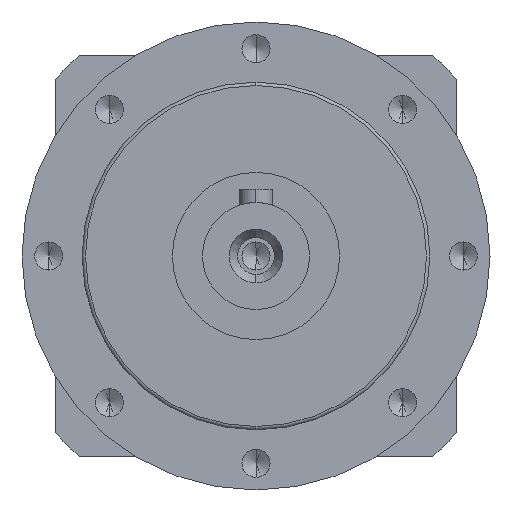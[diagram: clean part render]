
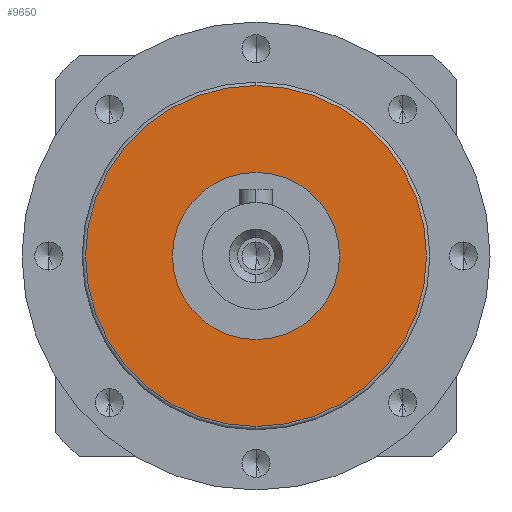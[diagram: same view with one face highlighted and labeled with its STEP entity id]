
A CAD part, left-side view. The second image highlights one B-rep face of the part: STEP entity #9650.
In plain terms, the highlighted planar face has unit normal (-1, 0, 0) as drawn and (0, 1, 0) by its records, which use the part's own axes.
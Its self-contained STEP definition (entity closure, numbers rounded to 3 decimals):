
#5799 = CARTESIAN_POINT ( 'NONE',  ( 0., 44., -25.5 ) ) ;
#5805 = CARTESIAN_POINT ( 'NONE',  ( 0., 44., 25.5 ) ) ;
#5857 = DIRECTION ( 'NONE',  ( 0., 0., 1. ) ) ;
#5858 = DIRECTION ( 'NONE',  ( 0., 1., 0. ) ) ;
#5859 = AXIS2_PLACEMENT_3D ( 'NONE', #5868, #5858, #5857 ) ;
#5860 = CIRCLE ( 'NONE', #5859, 25.5 ) ;
#5868 = CARTESIAN_POINT ( 'NONE',  ( 0., 44., 0. ) ) ;
#5977 = FACE_OUTER_BOUND ( 'NONE', #9648, .T. ) ;
#5996 = AXIS2_PLACEMENT_3D ( 'NONE', #6033, #6040, #6026 ) ;
#6010 = CIRCLE ( 'NONE', #6064, 12.5 ) ;
#6020 = DIRECTION ( 'NONE',  ( 0., 0., 1. ) ) ;
#6021 = DIRECTION ( 'NONE',  ( 0., 1., 0. ) ) ;
#6022 = CARTESIAN_POINT ( 'NONE',  ( 0., 44., 0. ) ) ;
#6023 = AXIS2_PLACEMENT_3D ( 'NONE', #6022, #6021, #6020 ) ;
#6026 = DIRECTION ( 'NONE',  ( 0., 0., 1. ) ) ;
#6028 = PLANE ( 'NONE',  #5996 ) ;
#6030 = CIRCLE ( 'NONE', #6023, 25.5 ) ;
#6033 = CARTESIAN_POINT ( 'NONE',  ( 0., 44., 0. ) ) ;
#6040 = DIRECTION ( 'NONE',  ( 0., 1., 0. ) ) ;
#6041 = FACE_BOUND ( 'NONE', #9671, .T. ) ;
#6053 = DIRECTION ( 'NONE',  ( 0., 0., 1. ) ) ;
#6058 = CARTESIAN_POINT ( 'NONE',  ( 0., 44., 0. ) ) ;
#6064 = AXIS2_PLACEMENT_3D ( 'NONE', #6058, #6067, #6053 ) ;
#6067 = DIRECTION ( 'NONE',  ( 0., 1., 0. ) ) ;
#6460 = DIRECTION ( 'NONE',  ( 0., 0., 1. ) ) ;
#6461 = DIRECTION ( 'NONE',  ( 0., 1., 0. ) ) ;
#6462 = CARTESIAN_POINT ( 'NONE',  ( 0., 44., 0. ) ) ;
#6463 = AXIS2_PLACEMENT_3D ( 'NONE', #6462, #6461, #6460 ) ;
#6473 = CIRCLE ( 'NONE', #6463, 12.5 ) ;
#6483 = CARTESIAN_POINT ( 'NONE',  ( 0., 44., 12.5 ) ) ;
#6539 = CARTESIAN_POINT ( 'NONE',  ( 0., 44., -12.5 ) ) ;
#9540 = VERTEX_POINT ( 'NONE', #5805 ) ;
#9550 = VERTEX_POINT ( 'NONE', #5799 ) ;
#9553 = EDGE_CURVE ( 'NONE', #9540, #9550, #5860, .T. ) ;
#9648 = EDGE_LOOP ( 'NONE', ( #9664, #9668 ) ) ;
#9650 = ADVANCED_FACE ( 'NONE', ( #5977, #6041 ), #6028, .T. ) ;
#9652 = EDGE_CURVE ( 'NONE', #9550, #9540, #6030, .T. ) ;
#9655 = ORIENTED_EDGE ( 'NONE', *, *, #9663, .F. ) ;
#9663 = EDGE_CURVE ( 'NONE', #9962, #9914, #6010, .T. ) ;
#9664 = ORIENTED_EDGE ( 'NONE', *, *, #9553, .T. ) ;
#9665 = ORIENTED_EDGE ( 'NONE', *, *, #9927, .F. ) ;
#9668 = ORIENTED_EDGE ( 'NONE', *, *, #9652, .T. ) ;
#9671 = EDGE_LOOP ( 'NONE', ( #9665, #9655 ) ) ;
#9914 = VERTEX_POINT ( 'NONE', #6483 ) ;
#9927 = EDGE_CURVE ( 'NONE', #9914, #9962, #6473, .T. ) ;
#9962 = VERTEX_POINT ( 'NONE', #6539 ) ;
